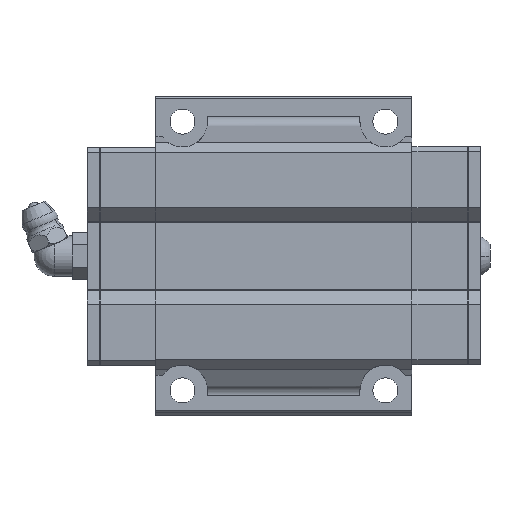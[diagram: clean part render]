
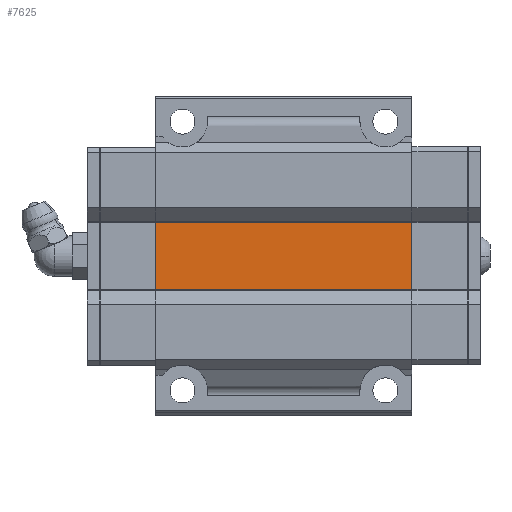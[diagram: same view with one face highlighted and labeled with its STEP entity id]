
A CAD part, front view. The second image highlights one B-rep face of the part: STEP entity #7625.
In plain terms, the highlighted planar face has unit normal (0, -1, 0).
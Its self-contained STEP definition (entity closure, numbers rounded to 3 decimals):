
#88 = ORIENTED_EDGE ( 'NONE', *, *, #4007, .F. ) ;
#942 = EDGE_CURVE ( 'NONE', #15367, #16521, #2403, .T. ) ;
#1117 = CARTESIAN_POINT ( 'NONE',  ( -25.25, 0., 7.231 ) ) ;
#1185 = ORIENTED_EDGE ( 'NONE', *, *, #942, .T. ) ;
#2246 = CARTESIAN_POINT ( 'NONE',  ( -25.25, 0., -7.231 ) ) ;
#2403 = LINE ( 'NONE', #7503, #7123 ) ;
#2477 = CARTESIAN_POINT ( 'NONE',  ( 25.25, 0., 3.615 ) ) ;
#2775 = AXIS2_PLACEMENT_3D ( 'NONE', #13848, #8739, #13925 ) ;
#3241 = CARTESIAN_POINT ( 'NONE',  ( -38.75, 0., 7.231 ) ) ;
#3655 = EDGE_LOOP ( 'NONE', ( #8344, #16484, #88, #1185 ) ) ;
#3962 = FACE_OUTER_BOUND ( 'NONE', #3655, .T. ) ;
#4007 = EDGE_CURVE ( 'NONE', #15367, #6444, #5469, .T. ) ;
#5469 = LINE ( 'NONE', #14103, #12481 ) ;
#6444 = VERTEX_POINT ( 'NONE', #1117 ) ;
#7123 = VECTOR ( 'NONE', #12770, 1000. ) ;
#7503 = CARTESIAN_POINT ( 'NONE',  ( -38.75, 0., -7.231 ) ) ;
#7625 = ADVANCED_FACE ( 'NONE', ( #3962 ), #9062, .T. ) ;
#7896 = VECTOR ( 'NONE', #13612, 1000. ) ;
#8344 = ORIENTED_EDGE ( 'NONE', *, *, #15757, .F. ) ;
#8739 = DIRECTION ( 'NONE',  ( 0., -1., 0. ) ) ;
#9062 = PLANE ( 'NONE',  #2775 ) ;
#9436 = LINE ( 'NONE', #3241, #12993 ) ;
#9921 = VERTEX_POINT ( 'NONE', #11889 ) ;
#11477 = EDGE_CURVE ( 'NONE', #6444, #9921, #9436, .T. ) ;
#11889 = CARTESIAN_POINT ( 'NONE',  ( 25.25, 0., 7.231 ) ) ;
#12065 = CARTESIAN_POINT ( 'NONE',  ( 25.25, 0., -7.231 ) ) ;
#12481 = VECTOR ( 'NONE', #12907, 1000. ) ;
#12770 = DIRECTION ( 'NONE',  ( 1., 0., 0. ) ) ;
#12907 = DIRECTION ( 'NONE',  ( 0., 0., 1. ) ) ;
#12993 = VECTOR ( 'NONE', #15722, 1000. ) ;
#13612 = DIRECTION ( 'NONE',  ( 0., 0., -1. ) ) ;
#13848 = CARTESIAN_POINT ( 'NONE',  ( -25.25, 0., 7.231 ) ) ;
#13858 = LINE ( 'NONE', #2477, #7896 ) ;
#13925 = DIRECTION ( 'NONE',  ( 0., 0., -1. ) ) ;
#14103 = CARTESIAN_POINT ( 'NONE',  ( -25.25, 0., 3.615 ) ) ;
#15367 = VERTEX_POINT ( 'NONE', #2246 ) ;
#15722 = DIRECTION ( 'NONE',  ( 1., 0., 0. ) ) ;
#15757 = EDGE_CURVE ( 'NONE', #9921, #16521, #13858, .T. ) ;
#16484 = ORIENTED_EDGE ( 'NONE', *, *, #11477, .F. ) ;
#16521 = VERTEX_POINT ( 'NONE', #12065 ) ;
